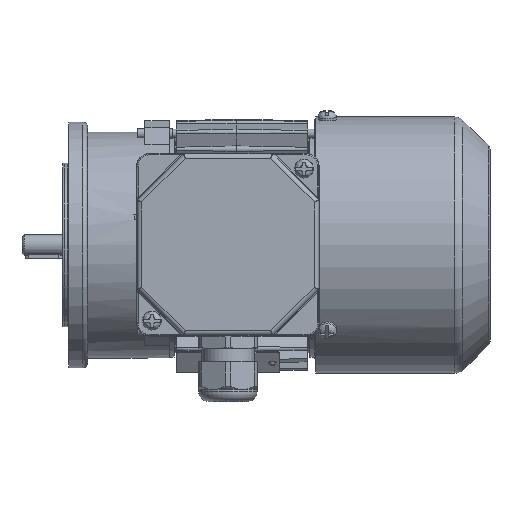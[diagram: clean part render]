
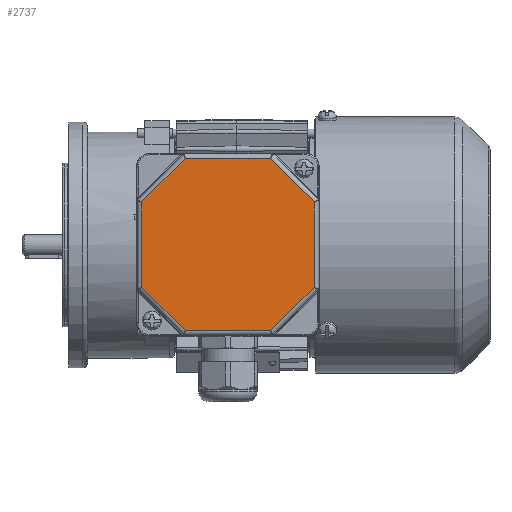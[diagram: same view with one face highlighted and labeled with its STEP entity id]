
A CAD part, top view. The second image highlights one B-rep face of the part: STEP entity #2737.
In plain terms, the highlighted planar face has unit normal (0, 0, 1).
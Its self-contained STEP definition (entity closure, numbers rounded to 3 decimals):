
#2737 = ADVANCED_FACE( '', ( #6367 ), #6368, .T. );
#6367 = FACE_OUTER_BOUND( '', #13713, .T. );
#6368 = PLANE( '', #13714 );
#13713 = EDGE_LOOP( '', ( #24771, #24772, #24773, #24774, #24775, #24776, #24777, #24778 ) );
#13714 = AXIS2_PLACEMENT_3D( '', #24779, #24780, #24781 );
#24771 = ORIENTED_EDGE( '', *, *, #37969, .T. );
#24772 = ORIENTED_EDGE( '', *, *, #37970, .T. );
#24773 = ORIENTED_EDGE( '', *, *, #37971, .T. );
#24774 = ORIENTED_EDGE( '', *, *, #37972, .T. );
#24775 = ORIENTED_EDGE( '', *, *, #37973, .T. );
#24776 = ORIENTED_EDGE( '', *, *, #37974, .T. );
#24777 = ORIENTED_EDGE( '', *, *, #37975, .T. );
#24778 = ORIENTED_EDGE( '', *, *, #37976, .T. );
#24779 = CARTESIAN_POINT( '', ( -39., 39., 12. ) );
#24780 = DIRECTION( '', ( 0., 0., 1. ) );
#24781 = DIRECTION( '', ( 1., 0., 0. ) );
#37969 = EDGE_CURVE( '', #44549, #44550, #44551, .F. );
#37970 = EDGE_CURVE( '', #44550, #44552, #44553, .T. );
#37971 = EDGE_CURVE( '', #44552, #44554, #44555, .F. );
#37972 = EDGE_CURVE( '', #44554, #44556, #44557, .T. );
#37973 = EDGE_CURVE( '', #44556, #44558, #44559, .F. );
#37974 = EDGE_CURVE( '', #44558, #44560, #44561, .T. );
#37975 = EDGE_CURVE( '', #44560, #44562, #44563, .F. );
#37976 = EDGE_CURVE( '', #44562, #44549, #44564, .T. );
#44549 = VERTEX_POINT( '', #55790 );
#44550 = VERTEX_POINT( '', #55791 );
#44551 = LINE( '', #55792, #55793 );
#44552 = VERTEX_POINT( '', #55794 );
#44553 = LINE( '', #55795, #55796 );
#44554 = VERTEX_POINT( '', #55797 );
#44555 = LINE( '', #55798, #55799 );
#44556 = VERTEX_POINT( '', #55800 );
#44557 = LINE( '', #55801, #55802 );
#44558 = VERTEX_POINT( '', #55803 );
#44559 = LINE( '', #55804, #55805 );
#44560 = VERTEX_POINT( '', #55806 );
#44561 = LINE( '', #55807, #55808 );
#44562 = VERTEX_POINT( '', #55809 );
#44563 = LINE( '', #55810, #55811 );
#44564 = LINE( '', #55812, #55813 );
#55790 = CARTESIAN_POINT( '', ( 36.825, -18.255, 12. ) );
#55791 = CARTESIAN_POINT( '', ( 36.825, 18.255, 12. ) );
#55792 = CARTESIAN_POINT( '', ( 36.825, 19.069, 12. ) );
#55793 = VECTOR( '', #68914, 1000. );
#55794 = CARTESIAN_POINT( '', ( 18.255, 36.825, 12. ) );
#55795 = CARTESIAN_POINT( '', ( 17.679, 37.401, 12. ) );
#55796 = VECTOR( '', #68915, 1000. );
#55797 = CARTESIAN_POINT( '', ( -18.255, 36.825, 12. ) );
#55798 = CARTESIAN_POINT( '', ( -19.069, 36.825, 12. ) );
#55799 = VECTOR( '', #68916, 1000. );
#55800 = CARTESIAN_POINT( '', ( -36.825, 18.255, 12. ) );
#55801 = CARTESIAN_POINT( '', ( -37.401, 17.679, 12. ) );
#55802 = VECTOR( '', #68917, 1000. );
#55803 = CARTESIAN_POINT( '', ( -36.825, -18.255, 12. ) );
#55804 = CARTESIAN_POINT( '', ( -36.825, -19.069, 12. ) );
#55805 = VECTOR( '', #68918, 1000. );
#55806 = CARTESIAN_POINT( '', ( -18.255, -36.825, 12. ) );
#55807 = CARTESIAN_POINT( '', ( -17.679, -37.401, 12. ) );
#55808 = VECTOR( '', #68919, 1000. );
#55809 = CARTESIAN_POINT( '', ( 18.255, -36.825, 12. ) );
#55810 = CARTESIAN_POINT( '', ( 19.069, -36.825, 12. ) );
#55811 = VECTOR( '', #68920, 1000. );
#55812 = CARTESIAN_POINT( '', ( 37.401, -17.679, 12. ) );
#55813 = VECTOR( '', #68921, 1000. );
#68914 = DIRECTION( '', ( 0., -1., 0. ) );
#68915 = DIRECTION( '', ( -0.707, 0.707, 0. ) );
#68916 = DIRECTION( '', ( 1., 0., 0. ) );
#68917 = DIRECTION( '', ( -0.707, -0.707, 0. ) );
#68918 = DIRECTION( '', ( 0., 1., 0. ) );
#68919 = DIRECTION( '', ( 0.707, -0.707, 0. ) );
#68920 = DIRECTION( '', ( -1., 0., 0. ) );
#68921 = DIRECTION( '', ( 0.707, 0.707, 0. ) );
